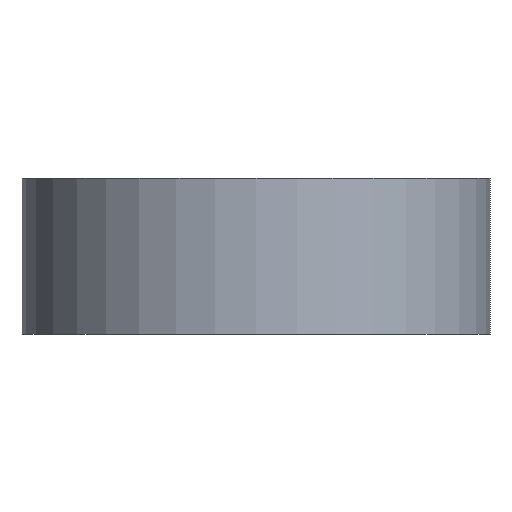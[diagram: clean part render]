
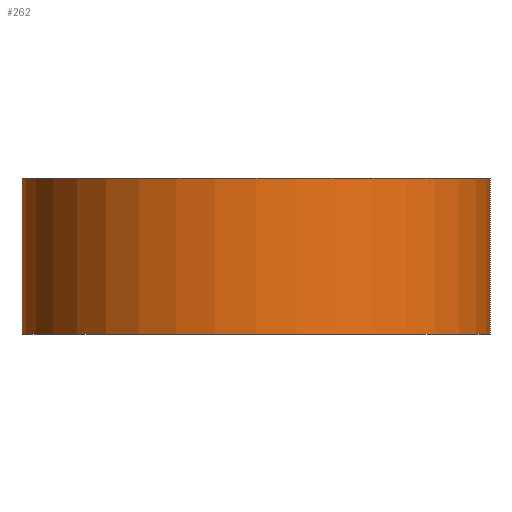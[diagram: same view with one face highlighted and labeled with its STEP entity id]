
A CAD part, left-side view. The second image highlights one B-rep face of the part: STEP entity #262.
In plain terms, the highlighted cylindrical face has radius 7.5 mm (diameter 15 mm), a partial arc.
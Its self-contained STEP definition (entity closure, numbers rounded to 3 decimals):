
#21=CARTESIAN_POINT('',(-15.,0.,0.));
#22=DIRECTION('',(0.,0.,1.));
#23=DIRECTION('',(0.,1.,0.));
#24=AXIS2_PLACEMENT_3D('',#21,#22,#23);
#67=CARTESIAN_POINT('',(-15.,0.,5.));
#68=DIRECTION('',(0.,0.,1.));
#69=DIRECTION('',(0.,1.,0.));
#70=AXIS2_PLACEMENT_3D('',#67,#68,#69);
#93=DIRECTION('',(0.,0.,1.));
#94=VECTOR('',#93,5.);
#95=CARTESIAN_POINT('',(-15.,7.5,0.));
#96=LINE('',#95,#94);
#105=DIRECTION('',(0.,0.,1.));
#106=VECTOR('',#105,5.);
#107=CARTESIAN_POINT('',(-15.,-7.5,0.));
#108=LINE('',#107,#106);
#117=CARTESIAN_POINT('',(-15.,7.5,0.));
#118=CARTESIAN_POINT('',(-15.,-7.5,0.));
#119=VERTEX_POINT('',#117);
#120=VERTEX_POINT('',#118);
#133=CARTESIAN_POINT('',(-15.,7.5,5.));
#134=CARTESIAN_POINT('',(-15.,-7.5,5.));
#135=VERTEX_POINT('',#133);
#136=VERTEX_POINT('',#134);
#249=CARTESIAN_POINT('',(-15.,0.,0.));
#250=DIRECTION('',(0.,0.,1.));
#251=DIRECTION('',(1.,0.,0.));
#252=AXIS2_PLACEMENT_3D('',#249,#250,#251);
#253=CYLINDRICAL_SURFACE('',#252,7.5);
#254=ORIENTED_EDGE('',*,*,#146,.F.);
#256=ORIENTED_EDGE('',*,*,#255,.T.);
#257=ORIENTED_EDGE('',*,*,#202,.T.);
#259=ORIENTED_EDGE('',*,*,#258,.F.);
#260=EDGE_LOOP('',(#254,#256,#257,#259));
#261=FACE_OUTER_BOUND('',#260,.F.);
#262=ADVANCED_FACE('',(#261),#253,.T.);
#25=CIRCLE('',#24,7.5);
#71=CIRCLE('',#70,7.5);
#146=EDGE_CURVE('',#119,#120,#25,.T.);
#202=EDGE_CURVE('',#135,#136,#71,.T.);
#255=EDGE_CURVE('',#119,#135,#96,.T.);
#258=EDGE_CURVE('',#120,#136,#108,.T.);
